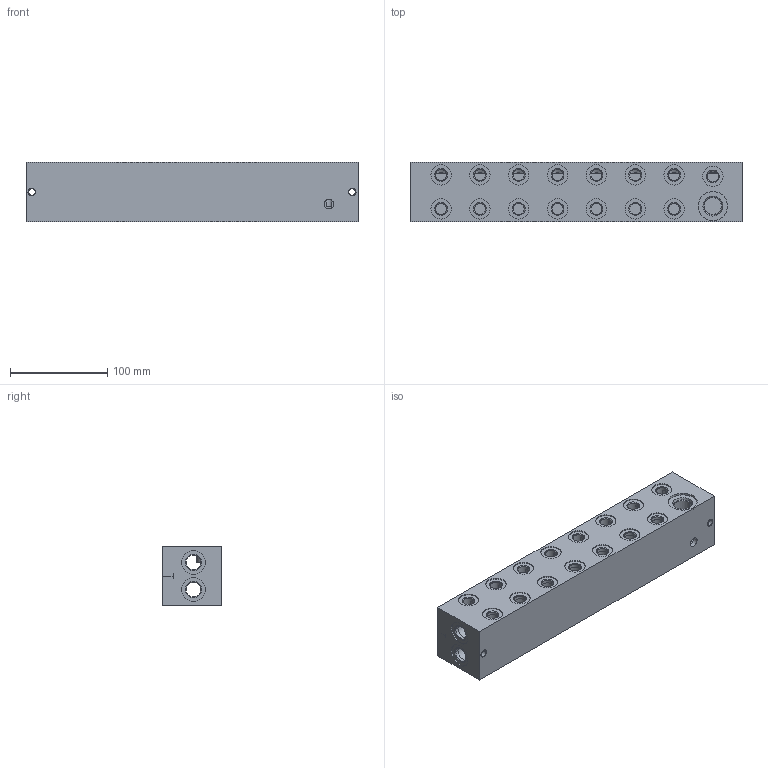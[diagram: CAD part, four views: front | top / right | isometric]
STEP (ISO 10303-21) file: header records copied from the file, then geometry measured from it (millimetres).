
FILE_DESCRIPTION((''),'2;1');
FILE_NAME('760_6970','2015-11-27T',('Ahcz.brigadnik05'),(''),'PRO/ENGINEER BY PARAMETRIC TECHNOLOGY CORPORATION, 2015110','PRO/ENGINEER BY PARAMETRIC TECHNOLOGY CORPORATION, 2015110','');
FILE_SCHEMA(('AUTOMOTIVE_DESIGN { 1 0 10303 214 1 1 1 1 }'));
Length unit declared in the file: millimetre
Products named in the file (1): 760_6970
Bounding box: 342 x 61 x 61 mm (x, y, z)
Volume: 472657 mm3; surface area: 187041.2 mm2
Topology: 1 solids, 55 shells, 484 faces, 2336 edges, 2215 vertices
Faces by surface type: cylinder 330, plane 92, cone 62
Entity records: 25897 total; most frequent: CARTESIAN_POINT 5459, DIRECTION 3947, ORIENTED_EDGE 2490, VECTOR 1445, LINE 1445, EDGE_CURVE 1353, AXIS2_PLACEMENT_3D 1251, TRIMMED_CURVE 978
